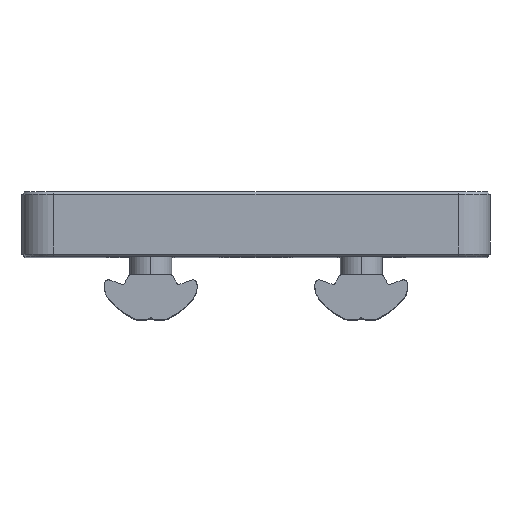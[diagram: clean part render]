
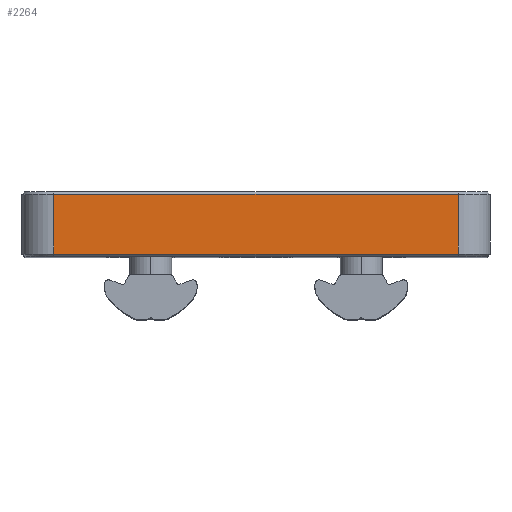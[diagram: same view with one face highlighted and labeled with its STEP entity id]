
A CAD part, top view. The second image highlights one B-rep face of the part: STEP entity #2264.
In plain terms, the highlighted planar face has unit normal (0, 0, 1).
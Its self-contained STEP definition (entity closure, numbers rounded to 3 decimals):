
#348 = DIRECTION ( 'NONE',  ( 0., 0., -1. ) ) ;
#1032 = LINE ( 'NONE', #5838, #2312 ) ;
#1249 = DIRECTION ( 'NONE',  ( 0., -1., 0. ) ) ;
#1325 = ORIENTED_EDGE ( 'NONE', *, *, #8113, .T. ) ;
#1480 = CARTESIAN_POINT ( 'NONE',  ( -58.044, 23.045, 45.154 ) ) ;
#2264 = ADVANCED_FACE ( 'NONE', ( #13325 ), #6102, .F. ) ;
#2312 = VECTOR ( 'NONE', #4666, 1000. ) ;
#2475 = ORIENTED_EDGE ( 'NONE', *, *, #12979, .T. ) ;
#3366 = DIRECTION ( 'NONE',  ( 1., 0., 0. ) ) ;
#3485 = EDGE_CURVE ( 'NONE', #8360, #14238, #12135, .T. ) ;
#4666 = DIRECTION ( 'NONE',  ( 0., 1., 0. ) ) ;
#5389 = AXIS2_PLACEMENT_3D ( 'NONE', #8636, #348, #13477 ) ;
#5420 = CARTESIAN_POINT ( 'NONE',  ( -58.044, 22.545, 45.154 ) ) ;
#5838 = CARTESIAN_POINT ( 'NONE',  ( 18.856, 23.045, 45.154 ) ) ;
#6102 = PLANE ( 'NONE',  #5389 ) ;
#8113 = EDGE_CURVE ( 'NONE', #11023, #8360, #11382, .T. ) ;
#8360 = VERTEX_POINT ( 'NONE', #13954 ) ;
#8636 = CARTESIAN_POINT ( 'NONE',  ( -64.044, 23.045, 45.154 ) ) ;
#8967 = ORIENTED_EDGE ( 'NONE', *, *, #3485, .T. ) ;
#9998 = VECTOR ( 'NONE', #1249, 1000. ) ;
#11023 = VERTEX_POINT ( 'NONE', #14782 ) ;
#11381 = VERTEX_POINT ( 'NONE', #11450 ) ;
#11382 = LINE ( 'NONE', #5420, #14790 ) ;
#11450 = CARTESIAN_POINT ( 'NONE',  ( 18.856, 11.226, 45.154 ) ) ;
#11562 = EDGE_LOOP ( 'NONE', ( #8967, #2475, #15209, #1325 ) ) ;
#12087 = LINE ( 'NONE', #14211, #13440 ) ;
#12135 = LINE ( 'NONE', #1480, #9998 ) ;
#12514 = DIRECTION ( 'NONE',  ( -1., 0., 0. ) ) ;
#12979 = EDGE_CURVE ( 'NONE', #14238, #11381, #12087, .T. ) ;
#13325 = FACE_OUTER_BOUND ( 'NONE', #11562, .T. ) ;
#13440 = VECTOR ( 'NONE', #3366, 1000. ) ;
#13477 = DIRECTION ( 'NONE',  ( -1., 0., 0. ) ) ;
#13611 = CARTESIAN_POINT ( 'NONE',  ( -58.044, 11.226, 45.154 ) ) ;
#13954 = CARTESIAN_POINT ( 'NONE',  ( -58.044, 22.545, 45.154 ) ) ;
#14211 = CARTESIAN_POINT ( 'NONE',  ( -64.044, 11.226, 45.154 ) ) ;
#14238 = VERTEX_POINT ( 'NONE', #13611 ) ;
#14782 = CARTESIAN_POINT ( 'NONE',  ( 18.856, 22.545, 45.154 ) ) ;
#14790 = VECTOR ( 'NONE', #12514, 1000. ) ;
#15209 = ORIENTED_EDGE ( 'NONE', *, *, #15618, .T. ) ;
#15618 = EDGE_CURVE ( 'NONE', #11381, #11023, #1032, .T. ) ;
